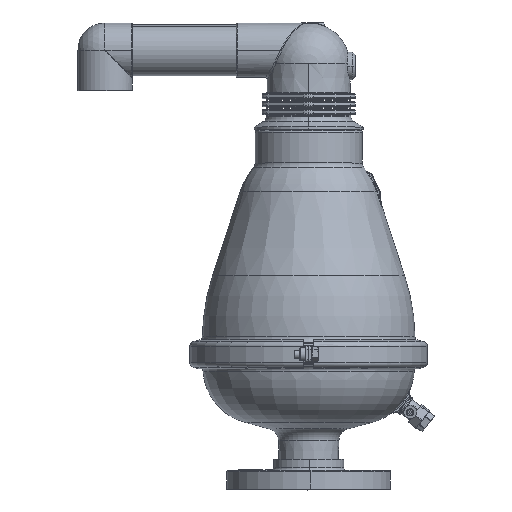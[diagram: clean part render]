
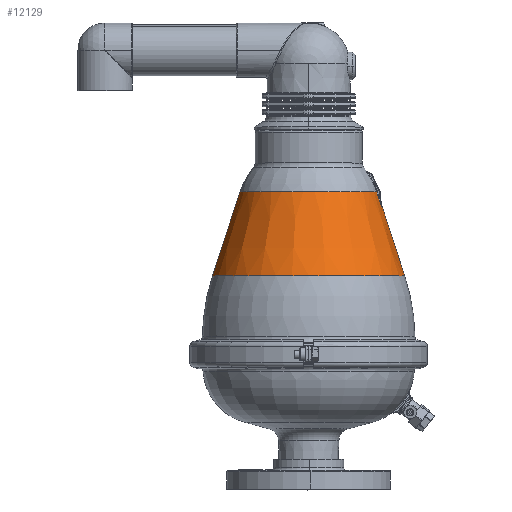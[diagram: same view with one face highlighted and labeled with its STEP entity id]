
A CAD part, top view. The second image highlights one B-rep face of the part: STEP entity #12129.
In plain terms, the highlighted conical face has half-angle 18 degrees and reference radius 96.771 mm.
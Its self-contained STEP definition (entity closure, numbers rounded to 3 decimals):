
#1712 = B_SPLINE_CURVE_WITH_KNOTS ( 'NONE', 3,
 ( #18643, #18620, #18714, #18698, #18628, #18678, #18709, #18711, #18718, #18561 ),
 .UNSPECIFIED., .F., .F.,
 ( 4, 2, 2, 2, 4 ),
 ( 0.009, 0.012, 0.013, 0.014, 0.019 ),
 .UNSPECIFIED. ) ;
#1720 = B_SPLINE_CURVE_WITH_KNOTS ( 'NONE', 3,
 ( #18651, #18679, #18600, #18589, #18569, #18587, #18584, #18581, #18571, #18590, #18602, #19414, #19411, #19408, #19405, #19403, #19401, #19400, #19398, #19395 ),
 .UNSPECIFIED., .F., .F.,
 ( 4, 2, 2, 2, 2, 2, 2, 2, 2, 4 ),
 ( 0., 0., 0.001, 0.001, 0.002, 0.002, 0.003, 0.004, 0.006, 0.009 ),
 .UNSPECIFIED. ) ;
#1781 = B_SPLINE_CURVE_WITH_KNOTS ( 'NONE', 3,
 ( #18196, #18193, #18181, #18178, #18176, #18174, #18171 ),
 .UNSPECIFIED., .F., .F.,
 ( 4, 3, 4 ),
 ( 0., 0.002, 0.007 ),
 .UNSPECIFIED. ) ;
#7632 = EDGE_CURVE ( 'NONE', #25581, #25176, #20981, .T. ) ;
#7865 = AXIS2_PLACEMENT_3D ( 'NONE', #19048, #19046, #19044 ) ;
#7892 = EDGE_CURVE ( 'NONE', #26015, #25194, #20676, .T. ) ;
#7909 = EDGE_CURVE ( 'NONE', #25581, #25869, #1712, .T. ) ;
#7911 = EDGE_CURVE ( 'NONE', #25869, #26135, #1720, .T. ) ;
#7937 = EDGE_CURVE ( 'NONE', #25032, #26015, #20729, .T. ) ;
#7969 = EDGE_CURVE ( 'NONE', #26135, #25032, #1781, .T. ) ;
#7971 = EDGE_CURVE ( 'NONE', #25176, #25194, #21539, .T. ) ;
#9173 = EDGE_LOOP ( 'NONE', ( #26954, #26965, #26971, #27183, #26885, #26612, #26471 ) ) ;
#10490 = AXIS2_PLACEMENT_3D ( 'NONE', #18149, #18147, #18145 ) ;
#10829 = AXIS2_PLACEMENT_3D ( 'NONE', #14133, #14134, #14138 ) ;
#12129 = ADVANCED_FACE ( 'NONE', ( #22746 ), #22754, .T. ) ;
#14133 = CARTESIAN_POINT ( 'NONE',  ( 0., 198.5, 0. ) ) ;
#14134 = DIRECTION ( 'NONE',  ( 0., -1., 0. ) ) ;
#14138 = DIRECTION ( 'NONE',  ( -1., 0., 0. ) ) ;
#14429 = CARTESIAN_POINT ( 'NONE',  ( 68.494, 282.9, 10.851 ) ) ;
#14731 = CARTESIAN_POINT ( 'NONE',  ( 96.771, 198.5, 0. ) ) ;
#15188 = CARTESIAN_POINT ( 'NONE',  ( 70.803, 275.875, 10.856 ) ) ;
#15309 = CARTESIAN_POINT ( 'NONE',  ( -69.348, 282.9, 0. ) ) ;
#15466 = CARTESIAN_POINT ( 'NONE',  ( 73.437, 268.666, 8.886 ) ) ;
#15713 = CARTESIAN_POINT ( 'NONE',  ( 73.23, 270.951, 0. ) ) ;
#16081 = CARTESIAN_POINT ( 'NONE',  ( -96.771, 198.5, 0. ) ) ;
#18145 = DIRECTION ( 'NONE',  ( -1., 0., 0. ) ) ;
#18147 = DIRECTION ( 'NONE',  ( 0., -1., 0. ) ) ;
#18149 = CARTESIAN_POINT ( 'NONE',  ( 0., 198.5, 0. ) ) ;
#18171 = CARTESIAN_POINT ( 'NONE',  ( 68.494, 282.9, 10.851 ) ) ;
#18174 = CARTESIAN_POINT ( 'NONE',  ( 69.055, 281.192, 10.852 ) ) ;
#18176 = CARTESIAN_POINT ( 'NONE',  ( 69.617, 279.484, 10.854 ) ) ;
#18178 = CARTESIAN_POINT ( 'NONE',  ( 70.178, 277.775, 10.855 ) ) ;
#18181 = CARTESIAN_POINT ( 'NONE',  ( 70.386, 277.142, 10.855 ) ) ;
#18193 = CARTESIAN_POINT ( 'NONE',  ( 70.595, 276.509, 10.855 ) ) ;
#18196 = CARTESIAN_POINT ( 'NONE',  ( 70.803, 275.875, 10.856 ) ) ;
#18561 = CARTESIAN_POINT ( 'NONE',  ( 73.437, 268.666, 8.886 ) ) ;
#18569 = CARTESIAN_POINT ( 'NONE',  ( 73.393, 268.636, 9.317 ) ) ;
#18571 = CARTESIAN_POINT ( 'NONE',  ( 73.088, 269.327, 9.915 ) ) ;
#18581 = CARTESIAN_POINT ( 'NONE',  ( 73.147, 269.179, 9.839 ) ) ;
#18584 = CARTESIAN_POINT ( 'NONE',  ( 73.263, 268.901, 9.652 ) ) ;
#18587 = CARTESIAN_POINT ( 'NONE',  ( 73.322, 268.767, 9.542 ) ) ;
#18589 = CARTESIAN_POINT ( 'NONE',  ( 73.414, 268.607, 9.232 ) ) ;
#18590 = CARTESIAN_POINT ( 'NONE',  ( 72.97, 269.632, 10.05 ) ) ;
#18600 = CARTESIAN_POINT ( 'NONE',  ( 73.438, 268.601, 9.056 ) ) ;
#18602 = CARTESIAN_POINT ( 'NONE',  ( 72.91, 269.789, 10.109 ) ) ;
#18620 = CARTESIAN_POINT ( 'NONE',  ( 73.23, 270.951, 0.776 ) ) ;
#18628 = CARTESIAN_POINT ( 'NONE',  ( 73.255, 270.68, 3.075 ) ) ;
#18635 = DIRECTION ( 'NONE',  ( -0.309, -0.951, 0. ) ) ;
#18643 = CARTESIAN_POINT ( 'NONE',  ( 73.23, 270.951, 0. ) ) ;
#18651 = CARTESIAN_POINT ( 'NONE',  ( 73.437, 268.666, 8.886 ) ) ;
#18678 = CARTESIAN_POINT ( 'NONE',  ( 73.269, 270.527, 3.834 ) ) ;
#18679 = CARTESIAN_POINT ( 'NONE',  ( 73.441, 268.625, 8.966 ) ) ;
#18683 = CARTESIAN_POINT ( 'NONE',  ( -96.771, 198.5, 0. ) ) ;
#18698 = CARTESIAN_POINT ( 'NONE',  ( 73.249, 270.744, 2.694 ) ) ;
#18709 = CARTESIAN_POINT ( 'NONE',  ( 73.277, 270.439, 4.212 ) ) ;
#18711 = CARTESIAN_POINT ( 'NONE',  ( 73.322, 269.942, 6.079 ) ) ;
#18714 = CARTESIAN_POINT ( 'NONE',  ( 73.235, 270.898, 1.547 ) ) ;
#18718 = CARTESIAN_POINT ( 'NONE',  ( 73.373, 269.37, 7.507 ) ) ;
#19044 = DIRECTION ( 'NONE',  ( -1., 0., 0. ) ) ;
#19046 = DIRECTION ( 'NONE',  ( 0., -1., 0. ) ) ;
#19048 = CARTESIAN_POINT ( 'NONE',  ( 0., 282.9, 0. ) ) ;
#19395 = CARTESIAN_POINT ( 'NONE',  ( 70.803, 275.875, 10.856 ) ) ;
#19398 = CARTESIAN_POINT ( 'NONE',  ( 71.023, 275.206, 10.856 ) ) ;
#19400 = CARTESIAN_POINT ( 'NONE',  ( 71.245, 274.538, 10.838 ) ) ;
#19401 = CARTESIAN_POINT ( 'NONE',  ( 71.695, 273.207, 10.756 ) ) ;
#19403 = CARTESIAN_POINT ( 'NONE',  ( 71.923, 272.542, 10.692 ) ) ;
#19405 = CARTESIAN_POINT ( 'NONE',  ( 72.268, 271.556, 10.546 ) ) ;
#19408 = CARTESIAN_POINT ( 'NONE',  ( 72.384, 271.23, 10.489 ) ) ;
#19411 = CARTESIAN_POINT ( 'NONE',  ( 72.616, 270.583, 10.349 ) ) ;
#19414 = CARTESIAN_POINT ( 'NONE',  ( 72.733, 270.262, 10.267 ) ) ;
#20671 = VECTOR ( 'NONE', #18635, 1000. ) ;
#20676 = LINE ( 'NONE', #18683, #20671 ) ;
#20729 = CIRCLE ( 'NONE', #7865, 69.348 ) ;
#20981 = LINE ( 'NONE', #28538, #21044 ) ;
#21044 = VECTOR ( 'NONE', #28551, 1000. ) ;
#21539 = CIRCLE ( 'NONE', #10490, 96.771 ) ;
#22746 = FACE_OUTER_BOUND ( 'NONE', #9173, .T. ) ;
#22754 = CONICAL_SURFACE ( 'NONE', #10829, 96.771, 0.314 ) ;
#25032 = VERTEX_POINT ( 'NONE', #14429 ) ;
#25176 = VERTEX_POINT ( 'NONE', #14731 ) ;
#25194 = VERTEX_POINT ( 'NONE', #16081 ) ;
#25581 = VERTEX_POINT ( 'NONE', #15713 ) ;
#25869 = VERTEX_POINT ( 'NONE', #15466 ) ;
#26015 = VERTEX_POINT ( 'NONE', #15309 ) ;
#26135 = VERTEX_POINT ( 'NONE', #15188 ) ;
#26471 = ORIENTED_EDGE ( 'NONE', *, *, #7971, .F. ) ;
#26612 = ORIENTED_EDGE ( 'NONE', *, *, #7892, .T. ) ;
#26885 = ORIENTED_EDGE ( 'NONE', *, *, #7937, .T. ) ;
#26954 = ORIENTED_EDGE ( 'NONE', *, *, #7632, .F. ) ;
#26965 = ORIENTED_EDGE ( 'NONE', *, *, #7909, .T. ) ;
#26971 = ORIENTED_EDGE ( 'NONE', *, *, #7911, .T. ) ;
#27183 = ORIENTED_EDGE ( 'NONE', *, *, #7969, .T. ) ;
#28538 = CARTESIAN_POINT ( 'NONE',  ( 96.771, 198.5, 0. ) ) ;
#28551 = DIRECTION ( 'NONE',  ( 0.309, -0.951, 0. ) ) ;
